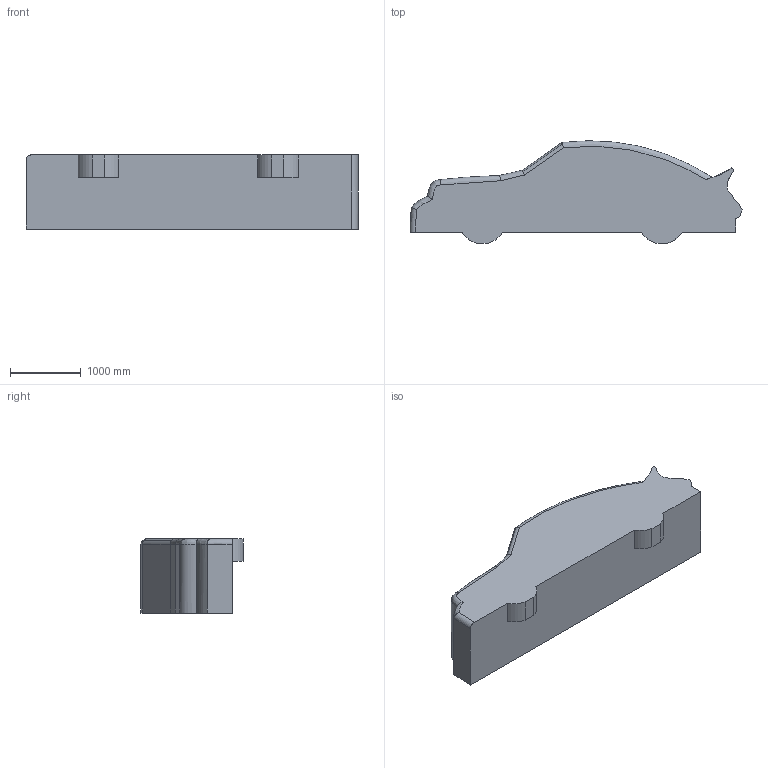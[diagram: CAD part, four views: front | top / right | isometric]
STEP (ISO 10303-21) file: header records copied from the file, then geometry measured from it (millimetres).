
FILE_DESCRIPTION(('STEP AP214'),'1');
FILE_NAME('car.stp','2026-01-30T21:12:33',(' '),(' '),'Spatial InterOp 3D',' ',' ');
FILE_SCHEMA(('AUTOMOTIVE_DESIGN { 1 0 10303 214 1 1 1 1 }'));
Length unit declared in the file: millimetre
Products named in the file (1): car
Bounding box: 4686.73 x 1442.84 x 1045.92 mm (x, y, z)
Volume: 4687947628.5 mm3; surface area: 20560541.4 mm2
Topology: 1 solids, 1 shells, 31 faces, 81 edges, 52 vertices
Faces by surface type: bspline 16, plane 9, cylinder 6
Entity records: 14714 total; most frequent: CARTESIAN_POINT 14037, ORIENTED_EDGE 162, DIRECTION 85, EDGE_CURVE 81, VERTEX_POINT 52, LINE 37, VECTOR 37, B_SPLINE_CURVE_WITH_KNOTS 36
